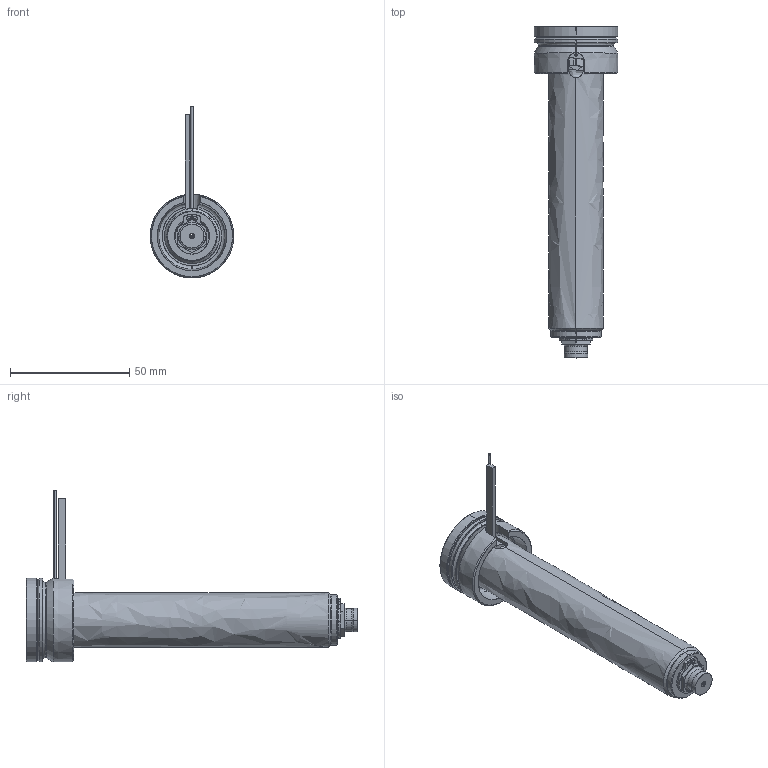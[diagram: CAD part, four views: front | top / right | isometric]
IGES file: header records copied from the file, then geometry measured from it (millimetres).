
Start section: SolidWorks IGES file using analytic representation for surfaces
Global section: file name: C:\Documents and Settings\ws-20\Desktop\TEM\UGEP3153-S-A-0 [Øf-0.90 P-0 ØC-6.0].IGS; native system: SolidWorks 2012; preprocessor: SolidWorks 2012; author: ws-20; date: 120404.080917; units: millimetre
Bounding box: 35 x 139 x 71.9 mm (x, y, z)
Surface area: 27955 mm2 (no closed solid volume)
Topology: 0 solids, 0 shells, 128 faces, 2040 edges, 2040 vertices
Faces by surface type: revolution 77, bspline 51
